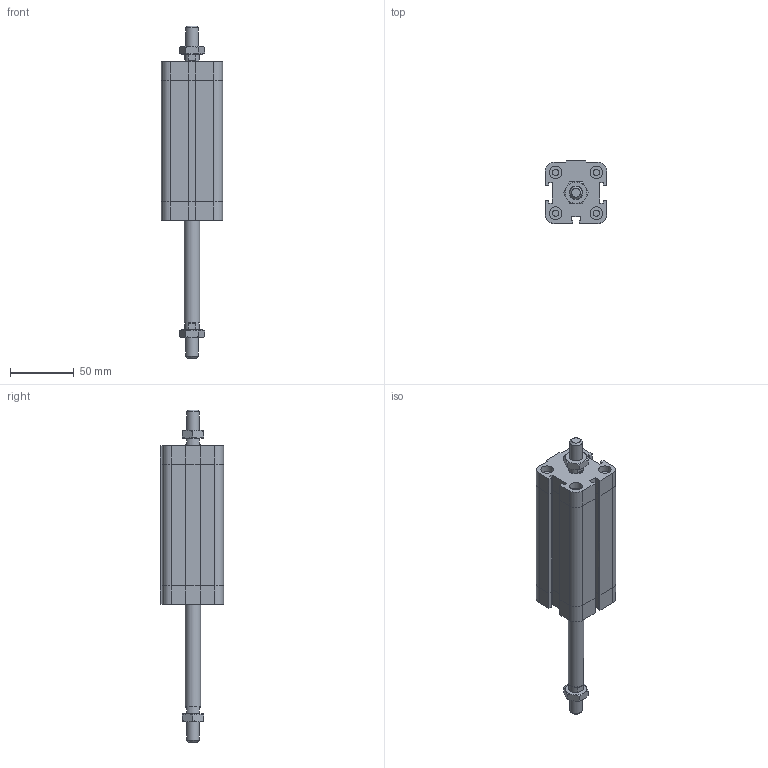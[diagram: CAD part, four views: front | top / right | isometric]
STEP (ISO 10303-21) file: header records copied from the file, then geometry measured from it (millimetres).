
FILE_DESCRIPTION((''),'2;1');
FILE_NAME('I:\Area Tecnica\Disegni\VARIE-3D\Componenti\EUROPE\15##_###_####_04_#\1581_32_0080_04_1.iam.stp','2009-04-20T14:51:19',(''),(''),'Autodesk Inventor 2009','Autodesk Inventor 2009','');
FILE_SCHEMA(('AUTOMOTIVE_DESIGN { 1 0 10303 214 1 1 1 1 }'));
Length unit declared in the file: millimetre
Products named in the file (4): 1581_32_0080_04_1; 1581_32_0080_03_1_C; 1561_32_0080_04_1_S; DBFM10
Assembly tree (4 placements, depth 2):
  1581_32_0080_04_1
    1581_32_0080_03_1_C
    1561_32_0080_04_1_S
    DBFM10  x2
Bounding box: 48 x 49.5 x 260.5 mm (x, y, z)
Volume: 270340.2 mm3; surface area: 52644.9 mm2
Topology: 4 solids, 4 shells, 222 faces, 483 edges, 289 vertices
Faces by surface type: plane 129, cone 35, bspline 33, cylinder 25
Full cylindrical faces by diameter (mm): 4.917 x4, 8.8 x1, 10 x5, 11.7 x2, 12 x1
Entity records: 5450 total; most frequent: CARTESIAN_POINT 1222, DIRECTION 802, ORIENTED_EDGE 772, EDGE_CURVE 386, AXIS2_PLACEMENT_3D 272, EDGE_LOOP 258, VECTOR 258, LINE 258
